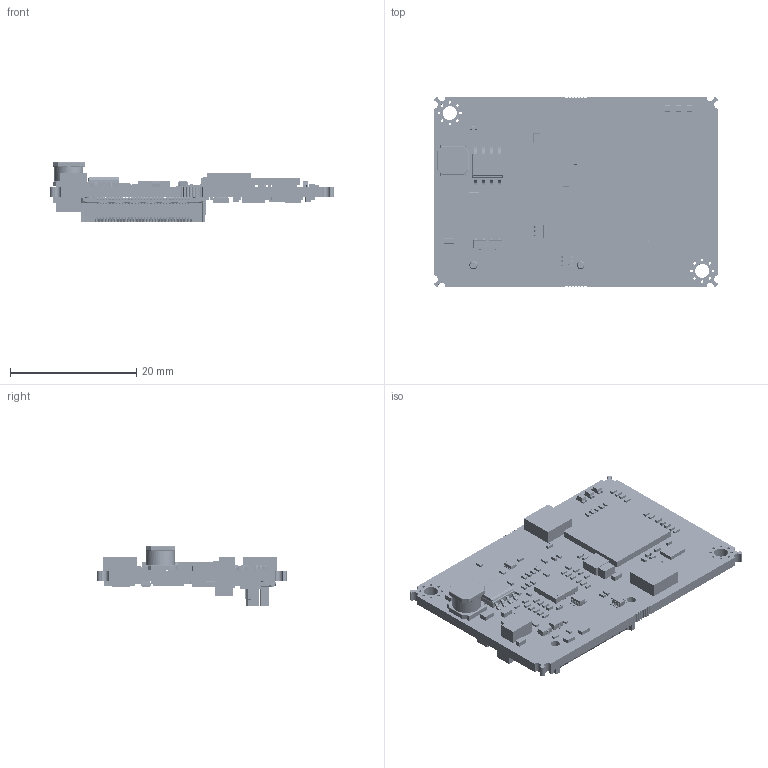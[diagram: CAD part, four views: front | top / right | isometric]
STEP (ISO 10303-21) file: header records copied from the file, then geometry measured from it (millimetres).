
FILE_DESCRIPTION(('Open CASCADE Model'),'2;1');
FILE_NAME('Open CASCADE Shape Model','2024-12-18T15:34:55',('Author'),( 'Open CASCADE'),'Open CASCADE STEP processor 7.5','Open CASCADE 7.5' ,'Unknown');
FILE_SCHEMA(('AUTOMOTIVE_DESIGN { 1 0 10303 214 1 1 1 1 }'));
Length unit declared in the file: millimetre
Products named in the file (340): PCB; Board; Open CASCADE STEP translator 7.5 4.1.1; SYM204; UL_MARKING_PCB_300x170; SYM203; MANUFACTURER _MARKING_PCB_370x150; SYM202; DATE_MARKING_PCB_380x150; SYM201; A3D-000014-2; Open CASCADE STEP translator 7.5 4.5.1.1; Open CASCADE STEP translator 7.5 4.5.1.2; Open CASCADE STEP translator 7.5 4.5.1.3; SYM200; Barcode; R917; User Library-SMD RESISTOR-0402; X100; LSHM-130-02.5-L-DV-A-N-K-TR; C-185--30-02.5-DV1P2 L; C-185--30-02.5-L-DV1P; LSHM-30-02.5-DV-A-N_STRIP; R716; R102; SW3dPS-smt_resistor_packages; R101; R323; R322; R321; R320; R319; R318; R317; R316; R916; R315; R314; R313; R312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
Assembly tree (538 placements, depth 5):
  PCB
    Board
      Open CASCADE STEP translator 7.5 4.1.1
    SYM204
      UL_MARKING_PCB_300x170
    SYM203
      MANUFACTURER _MARKING_PCB_370x150
    SYM202
      DATE_MARKING_PCB_380x150
    SYM201
      A3D-000014-2
        Open CASCADE STEP translator 7.5 4.5.1.1
        Open CASCADE STEP translator 7.5 4.5.1.2
        Open CASCADE STEP translator 7.5 4.5.1.3
    SYM200
      Barcode
    R917
      User Library-SMD RESISTOR-0402
    X100
      LSHM-130-02.5-L-DV-A-N-K-TR
        C-185--30-02.5-DV1P2 L
        C-185--30-02.5-L-DV1P
        LSHM-30-02.5-DV-A-N_STRIP
    R716
      User Library-SMD RESISTOR-0402
    R102
      SW3dPS-smt_resistor_packages
    R101
      SW3dPS-smt_resistor_packages
    R323
      User Library-SMD RESISTOR-0402
    R322
      User Library-SMD RESISTOR-0402
    R321
      User Library-SMD RESISTOR-0402
    R320
      User Library-SMD RESISTOR-0402
    R319
      User Library-SMD RESISTOR-0402
    R318
      User Library-SMD RESISTOR-0402
    R317
      User Library-SMD RESISTOR-0402
    R316
      User Library-SMD RESISTOR-0402
    R916
      User Library-SMD RESISTOR-0402
    R315
      User Library-SMD RESISTOR-0402
    R314
      User Library-SMD RESISTOR-0402
    R313
      User Library-SMD RESISTOR-0402
    R312
      User Library-SMD RESISTOR-0402
    IC500
      7677357696
        Extruded
      7677357216
        Extruded
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Bounding box: 45 x 30 x 9.54 mm (x, y, z)
Volume: 3007.5 mm3; surface area: 6877.8 mm2
Topology: 638 solids, 660 shells, 18643 faces, 47578 edges, 30482 vertices
Faces by surface type: plane 12755, cylinder 2813, bspline 2237, sphere 786, extrusion 47, cone 5
Full cylindrical faces by diameter (mm): 0.4 x16, 0.625 x1, 1.32 x1, 1.45 x2, 2.2 x2
Entity records: 205989 total; most frequent: CARTESIAN_POINT 36330, ORIENTED_EDGE 31908, DIRECTION 30718, EDGE_CURVE 15955, VECTOR 14306, LINE 14259, VERTEX_POINT 10293, AXIS2_PLACEMENT_3D 8206
